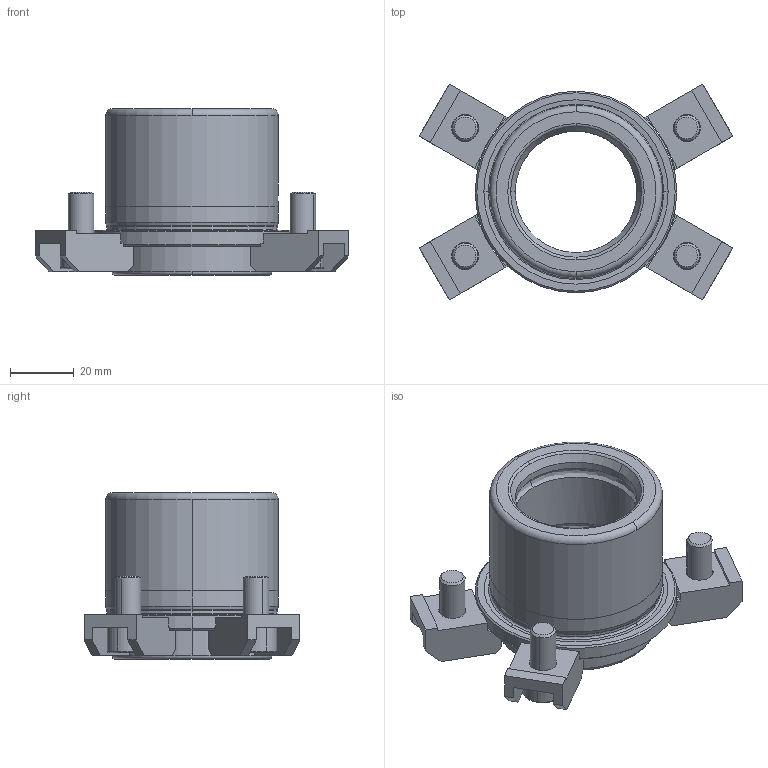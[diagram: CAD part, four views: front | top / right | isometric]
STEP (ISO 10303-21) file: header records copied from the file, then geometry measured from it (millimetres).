
FILE_DESCRIPTION((''),'2;1');
FILE_NAME('B12_038_014.stp','2008-11-04T13:50:02',(''),(''),'Mechanical Desktop 2009','Mechanical Desktop 2009',', , ');
FILE_SCHEMA(('CONFIG_CONTROL_DESIGN'));
Length unit declared in the file: millimetre
Products named in the file (2): Product; blmdl1
Assembly tree (1 placements, depth 2):
  Product
    blmdl1
Bounding box: 98.08 x 67.48 x 52 mm (x, y, z)
Volume: 75174 mm3; surface area: 30811.7 mm2
Topology: 9 solids, 9 shells, 244 faces, 634 edges, 417 vertices
Faces by surface type: plane 137, cylinder 56, cone 18, bspline 17, torus 16
Entity records: 8618 total; most frequent: CARTESIAN_POINT 2364, DIRECTION 1320, ORIENTED_EDGE 1268, EDGE_CURVE 634, AXIS2_PLACEMENT_3D 465, VERTEX_POINT 417, VECTOR 390, LINE 390
